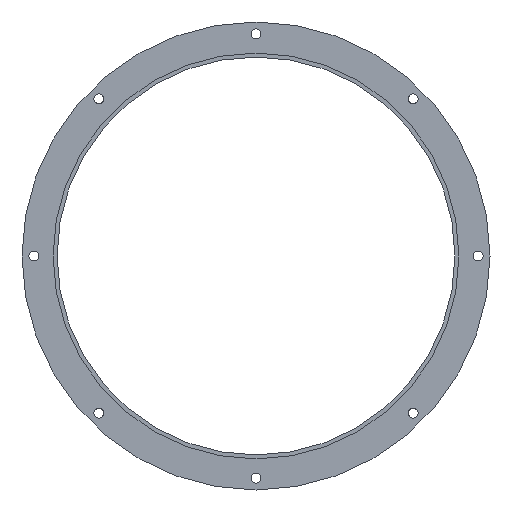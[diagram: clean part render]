
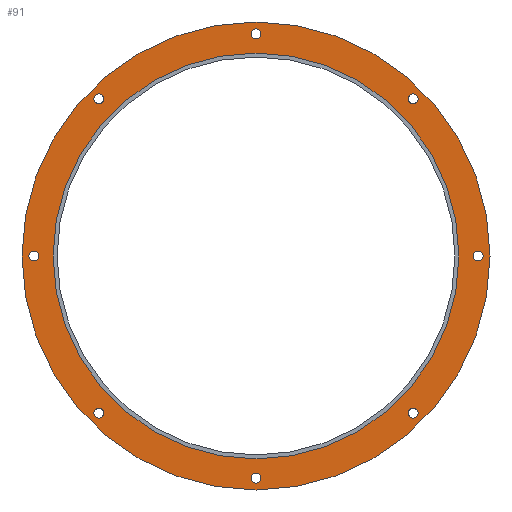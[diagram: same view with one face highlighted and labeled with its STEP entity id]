
A CAD part, front view. The second image highlights one B-rep face of the part: STEP entity #91.
In plain terms, the highlighted planar face has unit normal (0, -1, 0).
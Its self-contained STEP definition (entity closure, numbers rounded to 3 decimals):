
#91=ADVANCED_FACE('',(#179,#180,#181,#182,#183,#184,#185,#186,#187,#188),#189,.F.);
#179=FACE_BOUND('',#280,.T.);
#180=FACE_BOUND('',#281,.T.);
#181=FACE_BOUND('',#282,.T.);
#182=FACE_BOUND('',#283,.T.);
#183=FACE_BOUND('',#284,.T.);
#184=FACE_BOUND('',#285,.T.);
#185=FACE_BOUND('',#286,.T.);
#186=FACE_BOUND('',#287,.T.);
#187=FACE_OUTER_BOUND('',#288,.T.);
#188=FACE_BOUND('',#289,.T.);
#189=PLANE('',#290);
#280=EDGE_LOOP('',(#480,#481));
#281=EDGE_LOOP('',(#482,#483));
#282=EDGE_LOOP('',(#484,#485));
#283=EDGE_LOOP('',(#486,#487));
#284=EDGE_LOOP('',(#488,#489));
#285=EDGE_LOOP('',(#490,#491));
#286=EDGE_LOOP('',(#492,#493));
#287=EDGE_LOOP('',(#494,#495));
#288=EDGE_LOOP('',(#496,#497));
#289=EDGE_LOOP('',(#498,#499));
#290=AXIS2_PLACEMENT_3D('',#500,#501,#502);
#480=ORIENTED_EDGE('',*,*,#595,.T.);
#481=ORIENTED_EDGE('',*,*,#600,.T.);
#482=ORIENTED_EDGE('',*,*,#590,.T.);
#483=ORIENTED_EDGE('',*,*,#603,.T.);
#484=ORIENTED_EDGE('',*,*,#585,.T.);
#485=ORIENTED_EDGE('',*,*,#606,.T.);
#486=ORIENTED_EDGE('',*,*,#580,.T.);
#487=ORIENTED_EDGE('',*,*,#609,.T.);
#488=ORIENTED_EDGE('',*,*,#575,.T.);
#489=ORIENTED_EDGE('',*,*,#612,.T.);
#490=ORIENTED_EDGE('',*,*,#570,.T.);
#491=ORIENTED_EDGE('',*,*,#615,.T.);
#492=ORIENTED_EDGE('',*,*,#565,.T.);
#493=ORIENTED_EDGE('',*,*,#618,.T.);
#494=ORIENTED_EDGE('',*,*,#560,.T.);
#495=ORIENTED_EDGE('',*,*,#621,.T.);
#496=ORIENTED_EDGE('',*,*,#547,.F.);
#497=ORIENTED_EDGE('',*,*,#629,.F.);
#498=ORIENTED_EDGE('',*,*,#552,.F.);
#499=ORIENTED_EDGE('',*,*,#626,.F.);
#500=CARTESIAN_POINT('',(0.0,-4.0,0.));
#501=DIRECTION('',(0.0,1.0,0.));
#502=DIRECTION('',(1.0,0.0,0.0));
#547=EDGE_CURVE('',#640,#636,#642,.T.);
#552=EDGE_CURVE('',#649,#645,#651,.T.);
#560=EDGE_CURVE('',#665,#662,#666,.T.);
#565=EDGE_CURVE('',#674,#671,#675,.T.);
#570=EDGE_CURVE('',#683,#680,#684,.T.);
#575=EDGE_CURVE('',#692,#689,#693,.T.);
#580=EDGE_CURVE('',#701,#698,#702,.T.);
#585=EDGE_CURVE('',#710,#707,#711,.T.);
#590=EDGE_CURVE('',#719,#716,#720,.T.);
#595=EDGE_CURVE('',#728,#725,#729,.T.);
#600=EDGE_CURVE('',#725,#728,#735,.T.);
#603=EDGE_CURVE('',#716,#719,#738,.T.);
#606=EDGE_CURVE('',#707,#710,#741,.T.);
#609=EDGE_CURVE('',#698,#701,#744,.T.);
#612=EDGE_CURVE('',#689,#692,#747,.T.);
#615=EDGE_CURVE('',#680,#683,#750,.T.);
#618=EDGE_CURVE('',#671,#674,#753,.T.);
#621=EDGE_CURVE('',#662,#665,#756,.T.);
#626=EDGE_CURVE('',#645,#649,#761,.T.);
#629=EDGE_CURVE('',#636,#640,#764,.T.);
#636=VERTEX_POINT('',#771);
#640=VERTEX_POINT('',#776);
#642=CIRCLE('',#779,237.0);
#645=VERTEX_POINT('',#782);
#649=VERTEX_POINT('',#787);
#651=CIRCLE('',#790,205.5);
#662=VERTEX_POINT('',#803);
#665=VERTEX_POINT('',#807);
#666=CIRCLE('',#808,5.0);
#671=VERTEX_POINT('',#814);
#674=VERTEX_POINT('',#818);
#675=CIRCLE('',#819,5.0);
#680=VERTEX_POINT('',#825);
#683=VERTEX_POINT('',#829);
#684=CIRCLE('',#830,5.0);
#689=VERTEX_POINT('',#836);
#692=VERTEX_POINT('',#840);
#693=CIRCLE('',#841,5.0);
#698=VERTEX_POINT('',#847);
#701=VERTEX_POINT('',#851);
#702=CIRCLE('',#852,5.0);
#707=VERTEX_POINT('',#858);
#710=VERTEX_POINT('',#862);
#711=CIRCLE('',#863,5.0);
#716=VERTEX_POINT('',#869);
#719=VERTEX_POINT('',#873);
#720=CIRCLE('',#874,5.0);
#725=VERTEX_POINT('',#880);
#728=VERTEX_POINT('',#884);
#729=CIRCLE('',#885,5.0);
#735=CIRCLE('',#892,5.0);
#738=CIRCLE('',#895,5.0);
#741=CIRCLE('',#898,5.0);
#744=CIRCLE('',#901,5.0);
#747=CIRCLE('',#904,5.0);
#750=CIRCLE('',#907,5.0);
#753=CIRCLE('',#910,5.0);
#756=CIRCLE('',#913,5.0);
#761=CIRCLE('',#918,205.5);
#764=CIRCLE('',#921,237.0);
#771=CARTESIAN_POINT('',(237.0,-4.0,0.));
#776=CARTESIAN_POINT('',(-237.0,-4.0,0.));
#779=AXIS2_PLACEMENT_3D('',#931,#932,#933);
#782=CARTESIAN_POINT('',(205.5,-4.0,0.));
#787=CARTESIAN_POINT('',(-205.5,-4.0,0.));
#790=AXIS2_PLACEMENT_3D('',#939,#940,#941);
#803=CARTESIAN_POINT('',(230.0,-4.0,0.));
#807=CARTESIAN_POINT('',(220.0,-4.0,0.));
#808=AXIS2_PLACEMENT_3D('',#951,#952,#953);
#814=CARTESIAN_POINT('',(162.635,-4.,162.635));
#818=CARTESIAN_POINT('',(155.563,-4.,155.563));
#819=AXIS2_PLACEMENT_3D('',#959,#960,#961);
#825=CARTESIAN_POINT('',(0.,-4.,230.0));
#829=CARTESIAN_POINT('',(0.,-4.,220.0));
#830=AXIS2_PLACEMENT_3D('',#967,#968,#969);
#836=CARTESIAN_POINT('',(-162.635,-4.,162.635));
#840=CARTESIAN_POINT('',(-155.563,-4.,155.563));
#841=AXIS2_PLACEMENT_3D('',#975,#976,#977);
#847=CARTESIAN_POINT('',(-230.0,-4.0,0.));
#851=CARTESIAN_POINT('',(-220.0,-4.0,0.));
#852=AXIS2_PLACEMENT_3D('',#983,#984,#985);
#858=CARTESIAN_POINT('',(-162.635,-4.,-162.635));
#862=CARTESIAN_POINT('',(-155.563,-4.,-155.563));
#863=AXIS2_PLACEMENT_3D('',#991,#992,#993);
#869=CARTESIAN_POINT('',(0.,-4.,-230.0));
#873=CARTESIAN_POINT('',(0.,-4.,-220.0));
#874=AXIS2_PLACEMENT_3D('',#999,#1000,#1001);
#880=CARTESIAN_POINT('',(162.635,-4.,-162.635));
#884=CARTESIAN_POINT('',(155.563,-4.,-155.563));
#885=AXIS2_PLACEMENT_3D('',#1007,#1008,#1009);
#892=AXIS2_PLACEMENT_3D('',#1017,#1018,#1019);
#895=AXIS2_PLACEMENT_3D('',#1023,#1024,#1025);
#898=AXIS2_PLACEMENT_3D('',#1029,#1030,#1031);
#901=AXIS2_PLACEMENT_3D('',#1035,#1036,#1037);
#904=AXIS2_PLACEMENT_3D('',#1041,#1042,#1043);
#907=AXIS2_PLACEMENT_3D('',#1047,#1048,#1049);
#910=AXIS2_PLACEMENT_3D('',#1053,#1054,#1055);
#913=AXIS2_PLACEMENT_3D('',#1059,#1060,#1061);
#918=AXIS2_PLACEMENT_3D('',#1068,#1069,#1070);
#921=AXIS2_PLACEMENT_3D('',#1074,#1075,#1076);
#931=CARTESIAN_POINT('',(0.0,-4.0,0.));
#932=DIRECTION('',(0.0,1.0,0.));
#933=DIRECTION('',(1.0,0.0,0.0));
#939=CARTESIAN_POINT('',(0.0,-4.0,0.));
#940=DIRECTION('',(0.0,-1.0,0.));
#941=DIRECTION('',(1.0,0.0,0.0));
#951=CARTESIAN_POINT('',(225.0,-4.0,0.));
#952=DIRECTION('',(0.0,1.0,0.));
#953=DIRECTION('',(1.0,0.0,0.0));
#959=CARTESIAN_POINT('',(159.099,-4.,159.099));
#960=DIRECTION('',(0.0,1.0,0.));
#961=DIRECTION('',(0.707,0.,0.707));
#967=CARTESIAN_POINT('',(0.,-4.,225.0));
#968=DIRECTION('',(0.0,1.0,0.));
#969=DIRECTION('',(0.,0.,1.0));
#975=CARTESIAN_POINT('',(-159.099,-4.,159.099));
#976=DIRECTION('',(0.0,1.0,0.));
#977=DIRECTION('',(-0.707,0.,0.707));
#983=CARTESIAN_POINT('',(-225.0,-4.0,0.));
#984=DIRECTION('',(0.0,1.0,0.));
#985=DIRECTION('',(-1.0,0.,0.));
#991=CARTESIAN_POINT('',(-159.099,-4.,-159.099));
#992=DIRECTION('',(0.,1.0,0.));
#993=DIRECTION('',(-0.707,0.,-0.707));
#999=CARTESIAN_POINT('',(0.,-4.,-225.0));
#1000=DIRECTION('',(0.0,1.0,0.));
#1001=DIRECTION('',(0.,0.,-1.0));
#1007=CARTESIAN_POINT('',(159.099,-4.,-159.099));
#1008=DIRECTION('',(0.0,1.0,0.));
#1009=DIRECTION('',(0.707,0.,-0.707));
#1017=CARTESIAN_POINT('',(159.099,-4.,-159.099));
#1018=DIRECTION('',(0.0,1.0,0.));
#1019=DIRECTION('',(0.707,0.,-0.707));
#1023=CARTESIAN_POINT('',(0.,-4.,-225.0));
#1024=DIRECTION('',(0.0,1.0,0.));
#1025=DIRECTION('',(0.,0.,-1.0));
#1029=CARTESIAN_POINT('',(-159.099,-4.,-159.099));
#1030=DIRECTION('',(0.,1.0,0.));
#1031=DIRECTION('',(-0.707,0.,-0.707));
#1035=CARTESIAN_POINT('',(-225.0,-4.0,0.));
#1036=DIRECTION('',(0.0,1.0,0.));
#1037=DIRECTION('',(-1.0,0.,0.));
#1041=CARTESIAN_POINT('',(-159.099,-4.,159.099));
#1042=DIRECTION('',(0.0,1.0,0.));
#1043=DIRECTION('',(-0.707,0.,0.707));
#1047=CARTESIAN_POINT('',(0.,-4.,225.0));
#1048=DIRECTION('',(0.0,1.0,0.));
#1049=DIRECTION('',(0.,0.,1.0));
#1053=CARTESIAN_POINT('',(159.099,-4.,159.099));
#1054=DIRECTION('',(0.0,1.0,0.));
#1055=DIRECTION('',(0.707,0.,0.707));
#1059=CARTESIAN_POINT('',(225.0,-4.0,0.));
#1060=DIRECTION('',(0.0,1.0,0.));
#1061=DIRECTION('',(1.0,0.0,0.0));
#1068=CARTESIAN_POINT('',(0.0,-4.0,0.));
#1069=DIRECTION('',(0.0,-1.0,0.));
#1070=DIRECTION('',(1.0,0.0,0.0));
#1074=CARTESIAN_POINT('',(0.0,-4.0,0.));
#1075=DIRECTION('',(0.0,1.0,0.));
#1076=DIRECTION('',(1.0,0.0,0.0));
